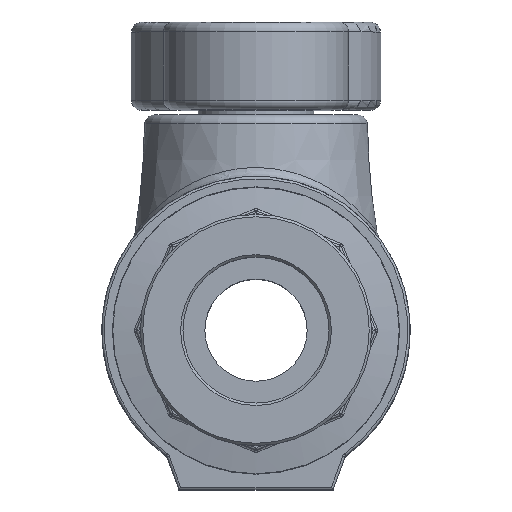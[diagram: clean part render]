
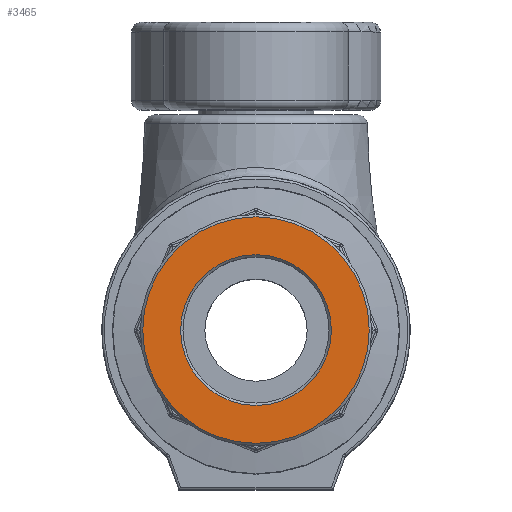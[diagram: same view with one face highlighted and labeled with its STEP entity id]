
A CAD part, top view. The second image highlights one B-rep face of the part: STEP entity #3465.
In plain terms, the highlighted planar face has unit normal (0, 0, 1).
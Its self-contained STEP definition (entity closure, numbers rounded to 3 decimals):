
#260=FACE_BOUND('',#582,.T.);
#272=PLANE('',#3713);
#356=FACE_OUTER_BOUND('',#581,.T.);
#581=EDGE_LOOP('',(#2344));
#582=EDGE_LOOP('',(#2345));
#1173=CIRCLE('',#3710,15.646);
#1176=CIRCLE('',#3714,23.5);
#1438=VERTEX_POINT('',#5295);
#1441=VERTEX_POINT('',#5303);
#1782=EDGE_CURVE('',#1438,#1438,#1173,.T.);
#1786=EDGE_CURVE('',#1441,#1441,#1176,.T.);
#2344=ORIENTED_EDGE('',*,*,#1786,.F.);
#2345=ORIENTED_EDGE('',*,*,#1782,.F.);
#3465=ADVANCED_FACE('',(#356,#260),#272,.T.);
#3710=AXIS2_PLACEMENT_3D('',#5296,#4181,#4182);
#3713=AXIS2_PLACEMENT_3D('',#5302,#4188,#4189);
#3714=AXIS2_PLACEMENT_3D('',#5304,#4190,#4191);
#4181=DIRECTION('center_axis',(0.,0.,1.));
#4182=DIRECTION('ref_axis',(0.,-1.,0.));
#4188=DIRECTION('center_axis',(0.,0.,1.));
#4189=DIRECTION('ref_axis',(1.,0.,0.));
#4190=DIRECTION('center_axis',(0.,0.,-1.));
#4191=DIRECTION('ref_axis',(0.,-1.,0.));
#5295=CARTESIAN_POINT('',(0.,15.646,0.));
#5296=CARTESIAN_POINT('Origin',(0.,0.,0.));
#5302=CARTESIAN_POINT('Origin',(0.,24.,0.));
#5303=CARTESIAN_POINT('',(0.,23.5,0.));
#5304=CARTESIAN_POINT('Origin',(0.,0.,0.));
